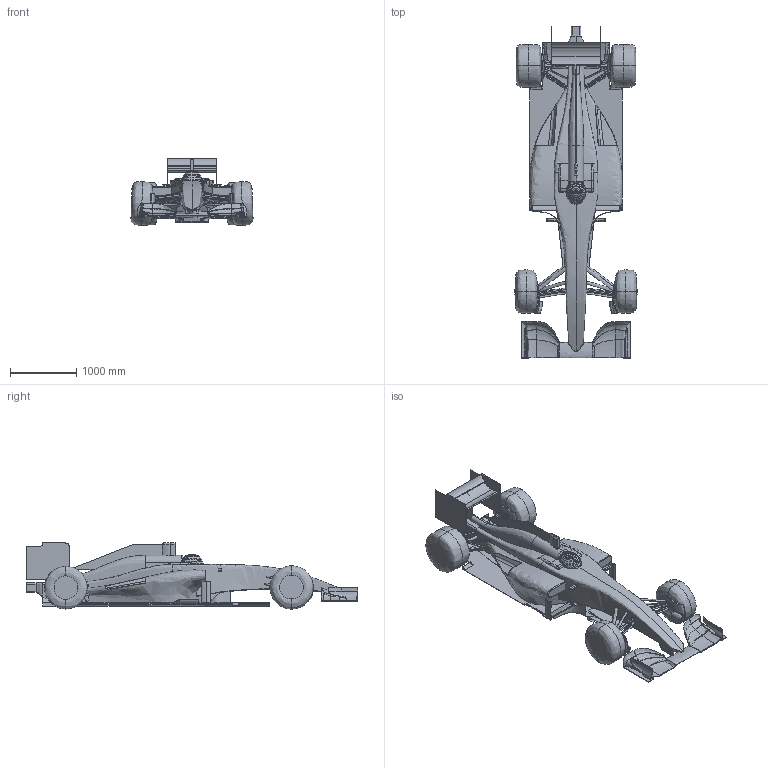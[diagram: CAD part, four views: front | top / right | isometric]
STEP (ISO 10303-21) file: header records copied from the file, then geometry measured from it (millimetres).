
FILE_DESCRIPTION(('STEP AP214'),'1');
FILE_NAME('MP002_GrabCAD.stp','2015-10-07T12:45:45',(' '),(' '),'Spatial InterOp 3D',' ',' ');
FILE_SCHEMA(('automotive_design'));
Length unit declared in the file: millimetre
Products named in the file (3): MP002_GrabCAD; wheels
Assembly tree (2 placements, depth 2):
  MP002_GrabCAD
    MP002_GrabCAD
    wheels
Bounding box: 1839.91 x 5000 x 998.97 mm (x, y, z)
Volume: 1426558243 mm3; surface area: 30596627.7 mm2
Topology: 5 solids, 9 shells, 1864 faces, 3881 edges, 2031 vertices
Faces by surface type: plane 1230, bspline 382, cylinder 214, torus 34, sphere 4
Entity records: 119358 total; most frequent: CARTESIAN_POINT 68451, ORIENTED_EDGE 7714, DIRECTION 6613, EDGE_CURVE 3857, LINE 2283, VECTOR 2283, AXIS2_PLACEMENT_3D 2165, VERTEX_POINT 2031
